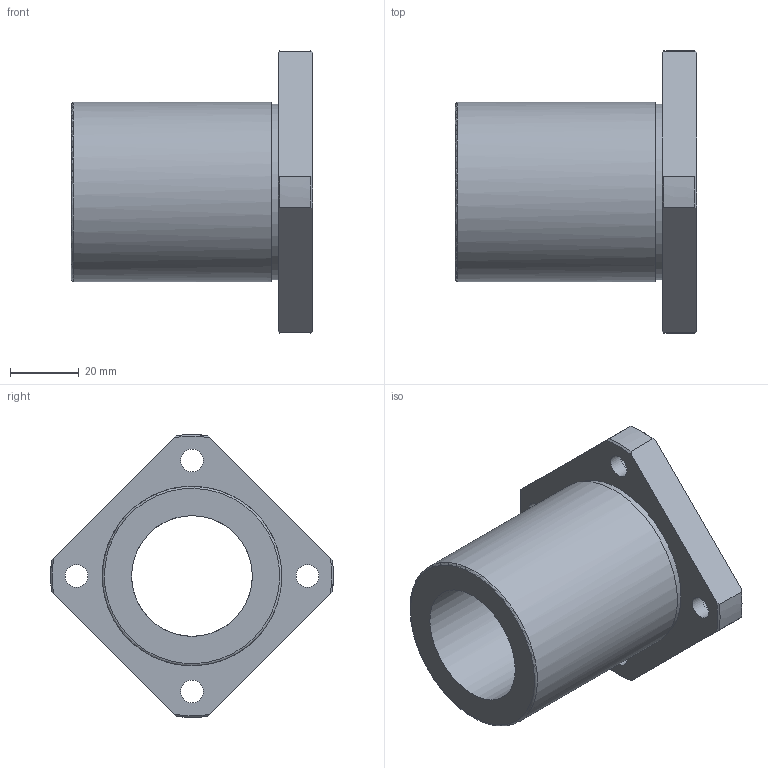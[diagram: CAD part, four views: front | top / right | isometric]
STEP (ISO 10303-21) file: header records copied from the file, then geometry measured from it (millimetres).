
FILE_DESCRIPTION(('STEP AP203'),'1');
FILE_NAME('//192.168.1.1/share/s-4 技術開発/s-4-4_CAD/s-4-4-3_見直し済み/002 修正済み/NF-V/NF-35VUU.step','2022-03-08T06:39:49',(' '),(' '),'Spatial InterOp 3D',' ',' ');
FILE_SCHEMA(('CONFIG_CONTROL_DESIGN'));
Length unit declared in the file: millimetre
Products named in the file (1): 1
Bounding box: 70 x 81.99 x 81.99 mm (x, y, z)
Volume: 97247.2 mm3; surface area: 27010.5 mm2
Topology: 1 solids, 1 shells, 36 faces, 86 edges, 58 vertices
Faces by surface type: plane 12, cylinder 11, cone 8, bspline 4, torus 1
Full cylindrical faces by diameter (mm): 6.6 x4, 11 x4, 35 x1, 51 x1, 52 x1
Entity records: 1451 total; most frequent: CARTESIAN_POINT 717, ORIENTED_EDGE 142, DIRECTION 98, EDGE_CURVE 71, EDGE_LOOP 64, VERTEX_POINT 55, B_SPLINE_CURVE_WITH_KNOTS 55, AXIS2_PLACEMENT_3D 49
